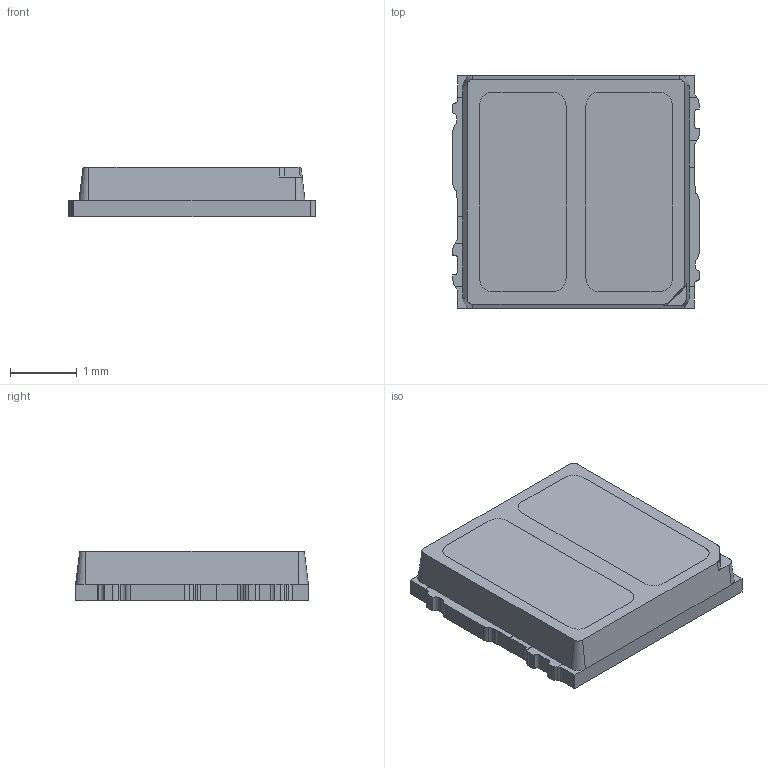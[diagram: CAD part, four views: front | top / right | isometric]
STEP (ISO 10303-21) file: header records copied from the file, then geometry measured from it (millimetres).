
FILE_DESCRIPTION (( 'STEP AP214' ), '1' );
FILE_NAME ('LAWD.STEP', '2025-03-31T02:25:56', ( '' ), ( '' ), 'SwSTEP 2.0', 'SolidWorks 2022', '' );
FILE_SCHEMA (( 'AUTOMOTIVE_DESIGN' ));
Length unit declared in the file: millimetre
Products named in the file (1): LAWD
Bounding box: 3.7 x 3.5 x 0.75 mm (x, y, z)
Volume: 8.9 mm3; surface area: 62 mm2
Topology: 5 solids, 5 shells, 276 faces, 772 edges, 508 vertices
Faces by surface type: plane 186, cylinder 78, bspline 8, cone 4
Entity records: 9646 total; most frequent: CARTESIAN_POINT 1769, ORIENTED_EDGE 1544, DIRECTION 1450, EDGE_CURVE 772, VECTOR 592, LINE 592, VERTEX_POINT 508, AXIS2_PLACEMENT_3D 429
